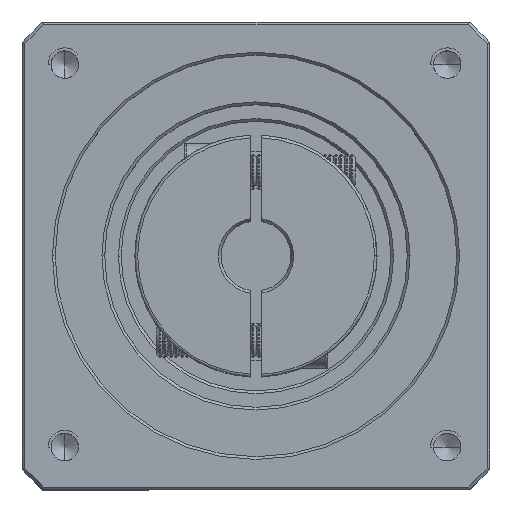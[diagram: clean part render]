
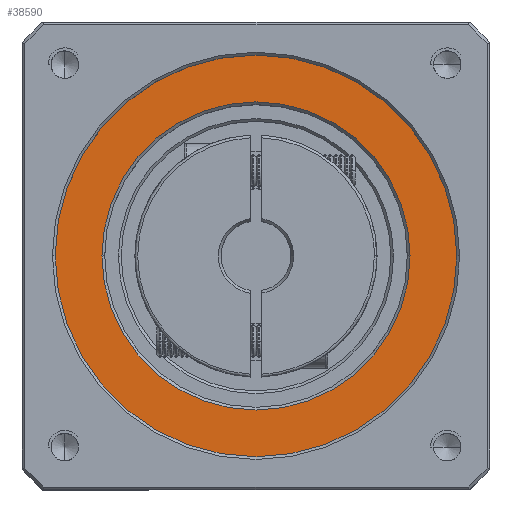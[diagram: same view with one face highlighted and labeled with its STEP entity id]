
A CAD part, top view. The second image highlights one B-rep face of the part: STEP entity #38590.
In plain terms, the highlighted planar face has unit normal (0, 0, 1).
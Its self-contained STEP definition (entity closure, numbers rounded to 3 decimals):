
#2531 = CARTESIAN_POINT ( 'NONE',  ( 70.992, 11.253, 99.75 ) ) ;
#3881 = DIRECTION ( 'NONE',  ( 1., 0., 0. ) ) ;
#4603 = ORIENTED_EDGE ( 'NONE', *, *, #58458, .T. ) ;
#4824 = FACE_OUTER_BOUND ( 'NONE', #33504, .T. ) ;
#5539 = DIRECTION ( 'NONE',  ( 0., 0., 1. ) ) ;
#13764 = EDGE_CURVE ( 'NONE', #43940, #16052, #18667, .T. ) ;
#16052 = VERTEX_POINT ( 'NONE', #60881 ) ;
#16962 = ORIENTED_EDGE ( 'NONE', *, *, #64206, .T. ) ;
#18667 = CIRCLE ( 'NONE', #121989, 28. ) ;
#25601 = DIRECTION ( 'NONE',  ( 0., 0., -1. ) ) ;
#33504 = EDGE_LOOP ( 'NONE', ( #16962, #43332 ) ) ;
#37682 = CARTESIAN_POINT ( 'NONE',  ( 79.492, 11.253, 99.75 ) ) ;
#38379 = CARTESIAN_POINT ( 'NONE',  ( 6.492, 11.253, 99.75 ) ) ;
#38590 = ADVANCED_FACE ( 'NONE', ( #4824, #106354 ), #62333, .T. ) ;
#40576 = VERTEX_POINT ( 'NONE', #38379 ) ;
#43332 = ORIENTED_EDGE ( 'NONE', *, *, #85726, .T. ) ;
#43940 = VERTEX_POINT ( 'NONE', #2531 ) ;
#45145 = CARTESIAN_POINT ( 'NONE',  ( 42.992, 11.253, 99.75 ) ) ;
#54855 = CARTESIAN_POINT ( 'NONE',  ( 42.992, 11.253, 99.75 ) ) ;
#54990 = DIRECTION ( 'NONE',  ( 1., 0., 0. ) ) ;
#56543 = CIRCLE ( 'NONE', #120197, 36.5 ) ;
#58039 = EDGE_LOOP ( 'NONE', ( #121712, #4603 ) ) ;
#58458 = EDGE_CURVE ( 'NONE', #16052, #43940, #87491, .T. ) ;
#59802 = AXIS2_PLACEMENT_3D ( 'NONE', #64436, #5539, #74248 ) ;
#60881 = CARTESIAN_POINT ( 'NONE',  ( 14.992, 11.253, 99.75 ) ) ;
#62333 = PLANE ( 'NONE',  #59802 ) ;
#62773 = DIRECTION ( 'NONE',  ( 0., 0., 1. ) ) ;
#64206 = EDGE_CURVE ( 'NONE', #110143, #40576, #65307, .T. ) ;
#64436 = CARTESIAN_POINT ( 'NONE',  ( 42.992, 11.253, 99.75 ) ) ;
#64751 = DIRECTION ( 'NONE',  ( 1., 0., 0. ) ) ;
#65307 = CIRCLE ( 'NONE', #117071, 36.5 ) ;
#74248 = DIRECTION ( 'NONE',  ( 1., 0., 0. ) ) ;
#77440 = AXIS2_PLACEMENT_3D ( 'NONE', #84396, #25601, #94327 ) ;
#84396 = CARTESIAN_POINT ( 'NONE',  ( 42.992, 11.253, 99.75 ) ) ;
#85726 = EDGE_CURVE ( 'NONE', #40576, #110143, #56543, .T. ) ;
#87491 = CIRCLE ( 'NONE', #77440, 28. ) ;
#94327 = DIRECTION ( 'NONE',  ( 1., 0., 0. ) ) ;
#106354 = FACE_BOUND ( 'NONE', #58039, .T. ) ;
#110143 = VERTEX_POINT ( 'NONE', #37682 ) ;
#113873 = DIRECTION ( 'NONE',  ( 0., 0., -1. ) ) ;
#117071 = AXIS2_PLACEMENT_3D ( 'NONE', #121677, #62773, #3881 ) ;
#120197 = AXIS2_PLACEMENT_3D ( 'NONE', #54855, #123625, #64751 ) ;
#121677 = CARTESIAN_POINT ( 'NONE',  ( 42.992, 11.253, 99.75 ) ) ;
#121712 = ORIENTED_EDGE ( 'NONE', *, *, #13764, .T. ) ;
#121989 = AXIS2_PLACEMENT_3D ( 'NONE', #45145, #113873, #54990 ) ;
#123625 = DIRECTION ( 'NONE',  ( 0., 0., 1. ) ) ;
